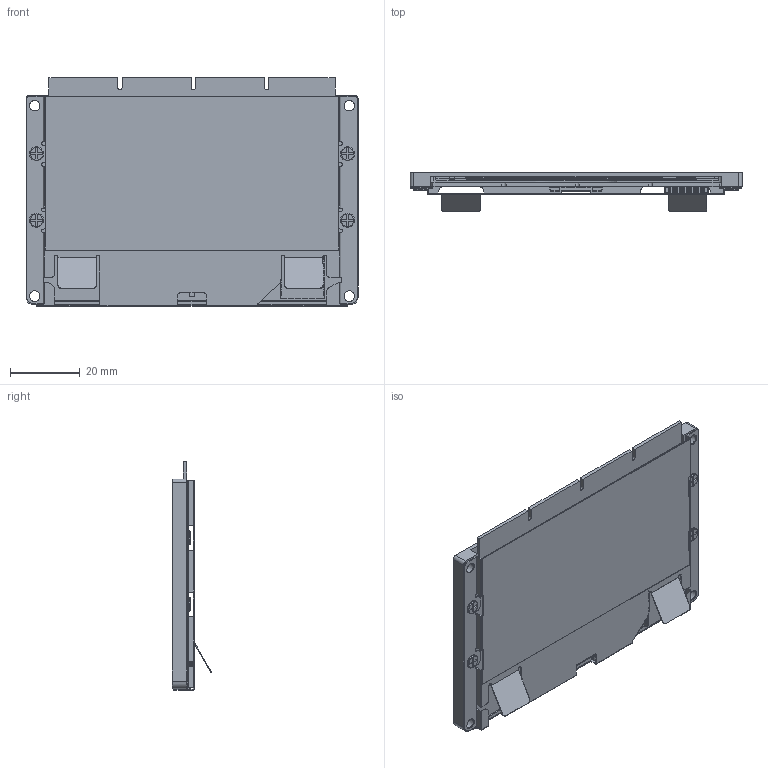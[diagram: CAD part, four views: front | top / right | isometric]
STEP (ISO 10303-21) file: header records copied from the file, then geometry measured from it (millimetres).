
FILE_DESCRIPTION((''),'2;1');
FILE_NAME('INTEL_HARD_BAY_MODULE_ASM_20220_ASM','2022-04-22T09:52:43',('djgrygi'),('INTEL'),'CREO PARAMETRIC BY PTC INC, 2021284','CREO PARAMETRIC BY PTC INC, 2021284','');
FILE_SCHEMA(('AUTOMOTIVE_DESIGN { 1 0 10303 214 1 1 1 1 }'));
Length unit declared in the file: millimetre
Products named in the file (30): A_SW_4P_6HOLD_382X161_1; T_A_LGA_140P_634X476_76P_1; INTEL_HARD_BAY_PCB_DXF_ASM_1_ASM; INTEL_HARD_BAY_WIFI_CHECK-37965; INTEL_HARD_BAY_WIFI_CHECK-38180_ASM; INTEL_HARD_BAY_PCB_ASM_ASM_1_ASM; INTEL_HEAR_BAY_PCB_MYLAR_1; INTEL_HARD_BAY_MYLAR_TAPE_1_ASM; INTEL_HARD_BAY_LABEL_1; INTEL_HARD_BAY_MYLAR_ASM_ASM_1_ASM; PRT0281_1; PRT0282_1; PRT0283_1; PRT0284_1; PRT0285_1; PRT0286_1; PRT0287_1; PRT0288_1; PRT0289_1; PRT0290_1; ASM0010_ASM_1_ASM; HB_THM_IHS_NC_210923_1_1_1_1; ASM0009_ASM_1_ASM; HB_THM_NCIHS_ASM_210924_ASM_ASM_ASM; HB_THM_NCIHS_ASM_220118_ASM_1_ASM; INTEL_HARD_BAY_THERMAL_CHECK_AS_ASM; SCREW_M2_L2_5_OD4_0_6T_STP_1; INTEL_HARD_BAY_ME_ASM_ASM_1_ASM; INTEL_HARD_BAY_MODULE_ASM_ASM_1_ASM; INTEL_HARD_BAY_MODULE_ASM_20220_ASM
Assembly tree (34 placements, depth 9):
  INTEL_HARD_BAY_MODULE_ASM_20220_ASM
    INTEL_HARD_BAY_MODULE_ASM_ASM_1_ASM
      INTEL_HARD_BAY_PCB_ASM_ASM_1_ASM
        INTEL_HARD_BAY_PCB_DXF_ASM_1_ASM
          A_SW_4P_6HOLD_382X161_1
          T_A_LGA_140P_634X476_76P_1
        INTEL_HARD_BAY_WIFI_CHECK-38180_ASM
          INTEL_HARD_BAY_WIFI_CHECK-37965
          T_A_LGA_140P_634X476_76P_1
          A_SW_4P_6HOLD_382X161_1
      INTEL_HARD_BAY_ME_ASM_ASM_1_ASM
        INTEL_HARD_BAY_MYLAR_ASM_ASM_1_ASM
          INTEL_HEAR_BAY_PCB_MYLAR_1
          INTEL_HARD_BAY_MYLAR_TAPE_1_ASM
          INTEL_HARD_BAY_LABEL_1
        INTEL_HARD_BAY_THERMAL_CHECK_AS_ASM
          HB_THM_NCIHS_ASM_220118_ASM_1_ASM
            HB_THM_NCIHS_ASM_210924_ASM_ASM_ASM
              ASM0009_ASM_1_ASM
                ASM0010_ASM_1_ASM
                  PRT0281_1
                  PRT0282_1
                  PRT0283_1
                  PRT0284_1
                  PRT0285_1
                  PRT0286_1
                  PRT0287_1
                  PRT0288_1
                  PRT0289_1
                  PRT0290_1
                HB_THM_IHS_NC_210923_1_1_1_1
        SCREW_M2_L2_5_OD4_0_6T_STP_1  x4
Bounding box: 95 x 11.22 x 65.4 mm (x, y, z)
Volume: 17846.6 mm3; surface area: 49576.3 mm2
Topology: 22 solids, 22 shells, 2289 faces, 6715 edges, 4476 vertices
Faces by surface type: plane 1489, cylinder 737, cone 20, torus 20, bspline 16, extrusion 7
Entity records: 54489 total; most frequent: CARTESIAN_POINT 10775, ORIENTED_EDGE 8096, DIRECTION 7639, EDGE_CURVE 4048, VECTOR 3001, LINE 2994, VERTEX_POINT 2703, AXIS2_PLACEMENT_3D 2319
